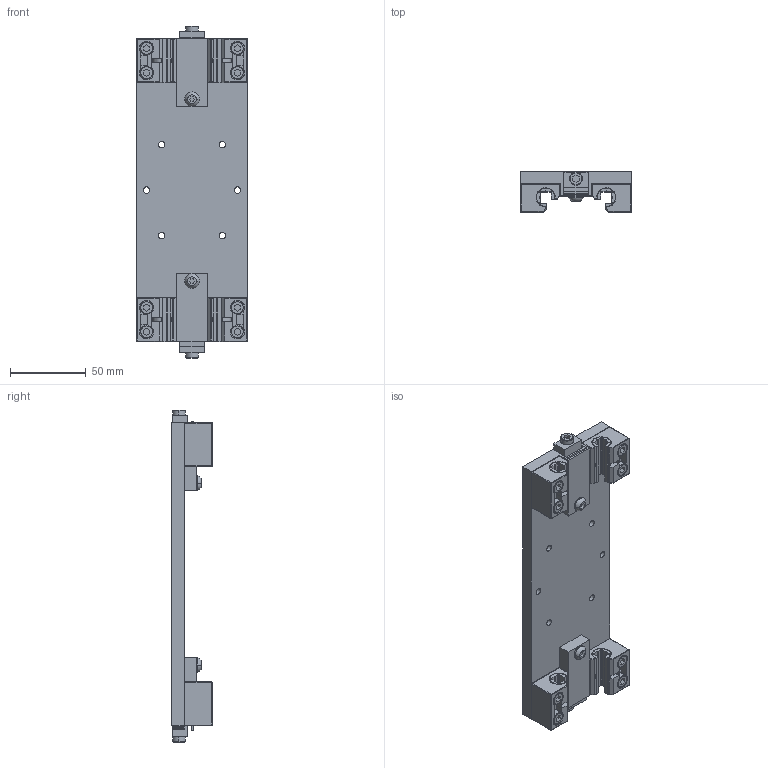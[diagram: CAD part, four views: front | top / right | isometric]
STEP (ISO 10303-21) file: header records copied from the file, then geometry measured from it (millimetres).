
FILE_DESCRIPTION((''),'2;1');
FILE_NAME('L4CB0006_510001412','2007-07-02T',('MS16935'),(''),'PRO/ENGINEER BY PARAMETRIC TECHNOLOGY CORPORATION, 2005170','PRO/ENGINEER BY PARAMETRIC TECHNOLOGY CORPORATION, 2005170','');
FILE_SCHEMA(('AUTOMOTIVE_DESIGN_CC2 { 1 2 10303 214 -1 1 5 2 }'));
Length unit declared in the file: millimetre
Products named in the file (1): L4CB0006_510001412
Bounding box: 73 x 26.5 x 219.1 mm (x, y, z)
Volume: 165770.5 mm3; surface area: 58786.8 mm2
Topology: 1 solids, 1 shells, 868 faces, 2090 edges, 1258 vertices
Faces by surface type: cylinder 360, plane 342, sphere 76, torus 68, cone 22
Entity records: 37755 total; most frequent: CARTESIAN_POINT 4967, DIRECTION 4607, ORIENTED_EDGE 4180, PRESENTATION_STYLE_ASSIGNMENT 2882, STYLED_ITEM 2097, CURVE_STYLE 2090, EDGE_CURVE 2090, AXIS2_PLACEMENT_3D 1685
